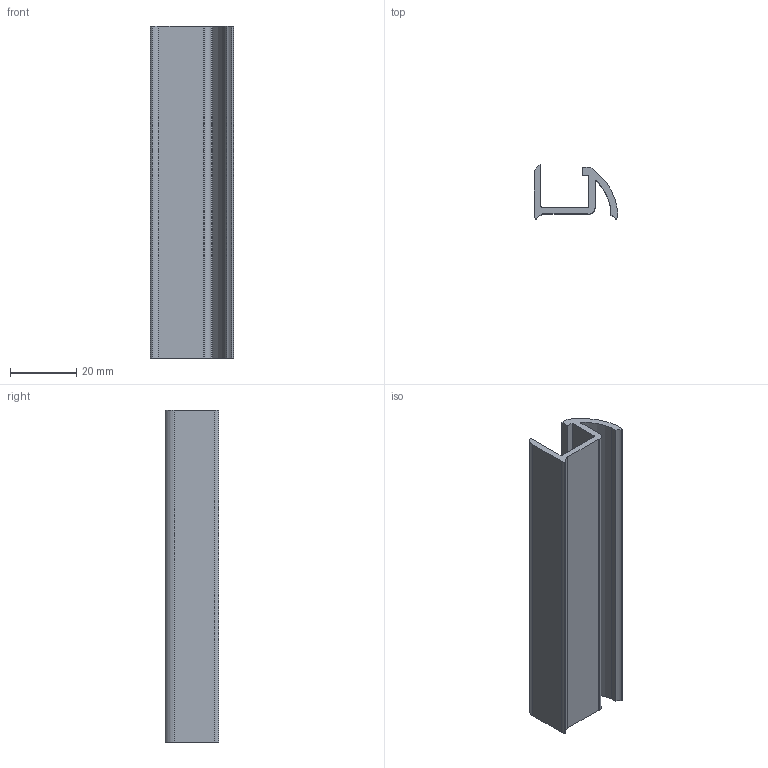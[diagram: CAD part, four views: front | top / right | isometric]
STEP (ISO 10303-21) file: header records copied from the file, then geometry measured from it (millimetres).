
FILE_DESCRIPTION (( 'STEP AP203' ), '1' );
FILE_NAME ('013.025.014.STEP', '2020-07-22T09:08:47', ( '' ), ( '' ), 'SwSTEP 2.0', 'SolidWorks 2018', '' );
FILE_SCHEMA (( 'CONFIG_CONTROL_DESIGN' ));
Length unit declared in the file: millimetre
Products named in the file (1): 013.025.014
Bounding box: 25 x 16.19 x 100 mm (x, y, z)
Volume: 11408.8 mm3; surface area: 12284.6 mm2
Topology: 1 solids, 1 shells, 32 faces, 90 edges, 60 vertices
Faces by surface type: plane 16, cylinder 15, bspline 1
Entity records: 1127 total; most frequent: CARTESIAN_POINT 196, DIRECTION 182, ORIENTED_EDGE 180, EDGE_CURVE 90, AXIS2_PLACEMENT_3D 62, VERTEX_POINT 60, LINE 58, VECTOR 58
